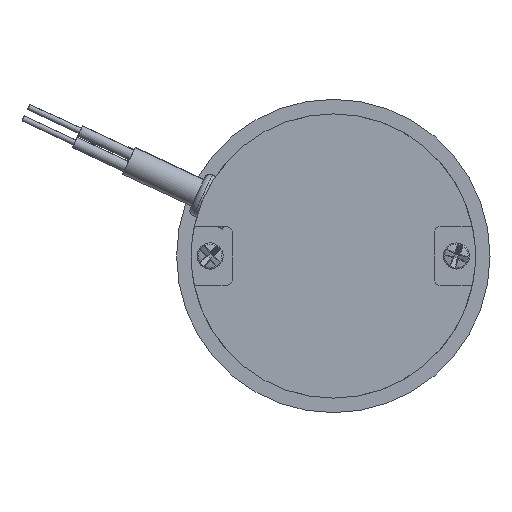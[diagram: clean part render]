
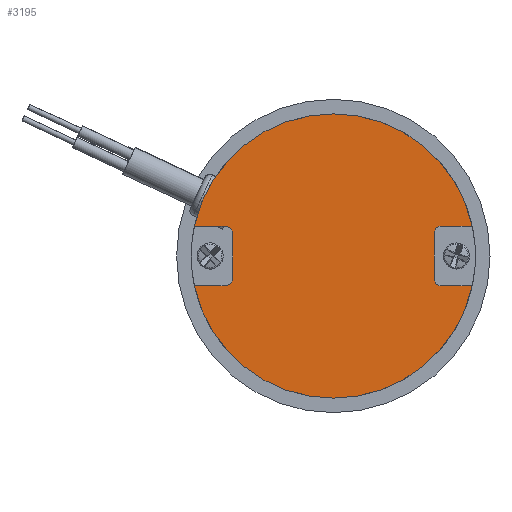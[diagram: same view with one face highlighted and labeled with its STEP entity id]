
A CAD part, left-side view. The second image highlights one B-rep face of the part: STEP entity #3195.
In plain terms, the highlighted planar face has unit normal (-1, 0, 0).
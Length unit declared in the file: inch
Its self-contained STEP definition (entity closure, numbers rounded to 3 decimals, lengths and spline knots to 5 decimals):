
#65 = CIRCLE ( 'NONE', #9357, 0.75 ) ;
#128 = CARTESIAN_POINT ( 'NONE',  ( -7.72717, 0.57087, 0.11811 ) ) ;
#151 = CARTESIAN_POINT ( 'NONE',  ( -7.72717, -0.57087, 0.15748 ) ) ;
#287 = ORIENTED_EDGE ( 'NONE', *, *, #6706, .T. ) ;
#323 = DIRECTION ( 'NONE',  ( 0., 0., -1. ) ) ;
#361 = DIRECTION ( 'NONE',  ( 1., 0., 0. ) ) ;
#371 = DIRECTION ( 'NONE',  ( 0., 0., 1. ) ) ;
#427 = DIRECTION ( 'NONE',  ( 1., 0., 0. ) ) ;
#435 = CARTESIAN_POINT ( 'NONE',  ( -7.72717, 0., 0. ) ) ;
#437 = VECTOR ( 'NONE', #5974, 39.37008 ) ;
#588 = ORIENTED_EDGE ( 'NONE', *, *, #4961, .F. ) ;
#679 = ORIENTED_EDGE ( 'NONE', *, *, #1022, .T. ) ;
#764 = CARTESIAN_POINT ( 'NONE',  ( -7.72717, 0.57087, 0.15748 ) ) ;
#793 = CARTESIAN_POINT ( 'NONE',  ( -7.72717, 0.57087, -0.11811 ) ) ;
#860 = ORIENTED_EDGE ( 'NONE', *, *, #5391, .F. ) ;
#1003 = ORIENTED_EDGE ( 'NONE', *, *, #6011, .F. ) ;
#1022 = EDGE_CURVE ( 'NONE', #9121, #2642, #4595, .T. ) ;
#1137 = CARTESIAN_POINT ( 'NONE',  ( -7.72717, 0., 0. ) ) ;
#1159 = CARTESIAN_POINT ( 'NONE',  ( -7.72717, 0.5315, 0.11811 ) ) ;
#1178 = DIRECTION ( 'NONE',  ( 0., 0., -1. ) ) ;
#1267 = CARTESIAN_POINT ( 'NONE',  ( -7.72717, 0., 0. ) ) ;
#1410 = ORIENTED_EDGE ( 'NONE', *, *, #8387, .F. ) ;
#1634 = VERTEX_POINT ( 'NONE', #5633 ) ;
#1666 = DIRECTION ( 'NONE',  ( 0., 0., 1. ) ) ;
#1712 = ORIENTED_EDGE ( 'NONE', *, *, #4043, .T. ) ;
#1780 = CARTESIAN_POINT ( 'NONE',  ( -7.72717, -0.5315, 0. ) ) ;
#1797 = AXIS2_PLACEMENT_3D ( 'NONE', #1137, #361, #1884 ) ;
#1884 = DIRECTION ( 'NONE',  ( 0., 0., -1. ) ) ;
#2097 = CIRCLE ( 'NONE', #2318, 0.03937 ) ;
#2157 = AXIS2_PLACEMENT_3D ( 'NONE', #1267, #6557, #1178 ) ;
#2318 = AXIS2_PLACEMENT_3D ( 'NONE', #8368, #7637, #6867 ) ;
#2393 = DIRECTION ( 'NONE',  ( 0., 1., 0. ) ) ;
#2402 = CIRCLE ( 'NONE', #8930, 0.75 ) ;
#2416 = CARTESIAN_POINT ( 'NONE',  ( -7.72717, 0.73328, 0.15748 ) ) ;
#2424 = ORIENTED_EDGE ( 'NONE', *, *, #7437, .F. ) ;
#2435 = LINE ( 'NONE', #2992, #437 ) ;
#2540 = VERTEX_POINT ( 'NONE', #2416 ) ;
#2584 = LINE ( 'NONE', #3338, #6838 ) ;
#2633 = AXIS2_PLACEMENT_3D ( 'NONE', #793, #6088, #3069 ) ;
#2638 = DIRECTION ( 'NONE',  ( 1., 0., 0. ) ) ;
#2642 = VERTEX_POINT ( 'NONE', #7942 ) ;
#2713 = CARTESIAN_POINT ( 'NONE',  ( -7.72717, 0., 0.15748 ) ) ;
#2876 = CIRCLE ( 'NONE', #8503, 0.75 ) ;
#2880 = CARTESIAN_POINT ( 'NONE',  ( -7.72717, 0., -0.75 ) ) ;
#2992 = CARTESIAN_POINT ( 'NONE',  ( -7.72717, 0., -0.15748 ) ) ;
#3069 = DIRECTION ( 'NONE',  ( 0., 0., 1. ) ) ;
#3147 = AXIS2_PLACEMENT_3D ( 'NONE', #128, #5454, #7653 ) ;
#3168 = CIRCLE ( 'NONE', #3147, 0.03937 ) ;
#3195 = ADVANCED_FACE ( 'NONE', ( #7487 ), #5722, .F. ) ;
#3238 = VERTEX_POINT ( 'NONE', #9511 ) ;
#3338 = CARTESIAN_POINT ( 'NONE',  ( -7.72717, 0.5315, 0. ) ) ;
#3339 = CARTESIAN_POINT ( 'NONE',  ( -7.72717, 0., 0.75 ) ) ;
#3383 = LINE ( 'NONE', #8463, #3617 ) ;
#3384 = ORIENTED_EDGE ( 'NONE', *, *, #4830, .F. ) ;
#3395 = VERTEX_POINT ( 'NONE', #7436 ) ;
#3617 = VECTOR ( 'NONE', #2393, 39.37008 ) ;
#3779 = VERTEX_POINT ( 'NONE', #1159 ) ;
#3809 = DIRECTION ( 'NONE',  ( 1., 0., 0. ) ) ;
#3958 = CIRCLE ( 'NONE', #7788, 0.03937 ) ;
#4043 = EDGE_CURVE ( 'NONE', #2642, #4545, #2435, .T. ) ;
#4489 = EDGE_CURVE ( 'NONE', #8700, #3395, #8174, .T. ) ;
#4521 = EDGE_CURVE ( 'NONE', #9121, #3779, #2584, .T. ) ;
#4545 = VERTEX_POINT ( 'NONE', #8754 ) ;
#4595 = CIRCLE ( 'NONE', #2633, 0.03937 ) ;
#4617 = ORIENTED_EDGE ( 'NONE', *, *, #7273, .F. ) ;
#4740 = VECTOR ( 'NONE', #5229, 39.37008 ) ;
#4830 = EDGE_CURVE ( 'NONE', #3779, #6949, #3168, .T. ) ;
#4961 = EDGE_CURVE ( 'NONE', #1634, #7423, #9782, .T. ) ;
#4972 = CARTESIAN_POINT ( 'NONE',  ( -7.72717, 0., 0. ) ) ;
#5229 = DIRECTION ( 'NONE',  ( 0., -1., 0. ) ) ;
#5255 = EDGE_CURVE ( 'NONE', #7423, #6977, #2097, .T. ) ;
#5391 = EDGE_CURVE ( 'NONE', #6949, #2540, #3383, .T. ) ;
#5454 = DIRECTION ( 'NONE',  ( -1., 0., 0. ) ) ;
#5484 = EDGE_LOOP ( 'NONE', ( #1712, #1410, #4617, #6911, #8720, #588, #287, #9114, #1003, #2424, #860, #3384, #8096, #679 ) ) ;
#5584 = VERTEX_POINT ( 'NONE', #2880 ) ;
#5633 = CARTESIAN_POINT ( 'NONE',  ( -7.72717, -0.5315, 0.11811 ) ) ;
#5722 = PLANE ( 'NONE',  #1797 ) ;
#5753 = CARTESIAN_POINT ( 'NONE',  ( -7.72717, -0.5315, -0.11811 ) ) ;
#5945 = CIRCLE ( 'NONE', #2157, 0.75 ) ;
#5974 = DIRECTION ( 'NONE',  ( 0., 1., 0. ) ) ;
#6011 = EDGE_CURVE ( 'NONE', #8288, #3395, #65, .T. ) ;
#6037 = CARTESIAN_POINT ( 'NONE',  ( -7.72717, 0.5315, -0.11811 ) ) ;
#6088 = DIRECTION ( 'NONE',  ( 1., 0., 0. ) ) ;
#6172 = CARTESIAN_POINT ( 'NONE',  ( -7.72717, -0.57087, 0.11811 ) ) ;
#6557 = DIRECTION ( 'NONE',  ( 1., 0., 0. ) ) ;
#6604 = DIRECTION ( 'NONE',  ( 0., 0., -1. ) ) ;
#6706 = EDGE_CURVE ( 'NONE', #1634, #8700, #3958, .T. ) ;
#6838 = VECTOR ( 'NONE', #371, 39.37008 ) ;
#6848 = CARTESIAN_POINT ( 'NONE',  ( -7.72717, -0.57087, -0.15748 ) ) ;
#6867 = DIRECTION ( 'NONE',  ( 0., 0., 1. ) ) ;
#6911 = ORIENTED_EDGE ( 'NONE', *, *, #9056, .F. ) ;
#6949 = VERTEX_POINT ( 'NONE', #764 ) ;
#6977 = VERTEX_POINT ( 'NONE', #6848 ) ;
#7045 = DIRECTION ( 'NONE',  ( 1., 0., 0. ) ) ;
#7073 = DIRECTION ( 'NONE',  ( 0., 0., -1. ) ) ;
#7273 = EDGE_CURVE ( 'NONE', #3238, #5584, #2402, .T. ) ;
#7423 = VERTEX_POINT ( 'NONE', #5753 ) ;
#7436 = CARTESIAN_POINT ( 'NONE',  ( -7.72717, -0.73328, 0.15748 ) ) ;
#7437 = EDGE_CURVE ( 'NONE', #2540, #8288, #2876, .T. ) ;
#7487 = FACE_OUTER_BOUND ( 'NONE', #5484, .T. ) ;
#7637 = DIRECTION ( 'NONE',  ( -1., 0., 0. ) ) ;
#7653 = DIRECTION ( 'NONE',  ( 0., 0., 1. ) ) ;
#7788 = AXIS2_PLACEMENT_3D ( 'NONE', #6172, #3809, #1666 ) ;
#7938 = DIRECTION ( 'NONE',  ( 0., 0., -1. ) ) ;
#7942 = CARTESIAN_POINT ( 'NONE',  ( -7.72717, 0.57087, -0.15748 ) ) ;
#8014 = DIRECTION ( 'NONE',  ( 0., -1., 0. ) ) ;
#8096 = ORIENTED_EDGE ( 'NONE', *, *, #4521, .F. ) ;
#8174 = LINE ( 'NONE', #2713, #8406 ) ;
#8288 = VERTEX_POINT ( 'NONE', #3339 ) ;
#8307 = LINE ( 'NONE', #9722, #4740 ) ;
#8368 = CARTESIAN_POINT ( 'NONE',  ( -7.72717, -0.57087, -0.11811 ) ) ;
#8387 = EDGE_CURVE ( 'NONE', #5584, #4545, #5945, .T. ) ;
#8406 = VECTOR ( 'NONE', #8014, 39.37008 ) ;
#8463 = CARTESIAN_POINT ( 'NONE',  ( -7.72717, 0., 0.15748 ) ) ;
#8503 = AXIS2_PLACEMENT_3D ( 'NONE', #435, #2638, #7938 ) ;
#8577 = CARTESIAN_POINT ( 'NONE',  ( -7.72717, 0., 0. ) ) ;
#8617 = VECTOR ( 'NONE', #323, 39.37008 ) ;
#8700 = VERTEX_POINT ( 'NONE', #151 ) ;
#8720 = ORIENTED_EDGE ( 'NONE', *, *, #5255, .F. ) ;
#8754 = CARTESIAN_POINT ( 'NONE',  ( -7.72717, 0.73328, -0.15748 ) ) ;
#8930 = AXIS2_PLACEMENT_3D ( 'NONE', #8577, #7045, #7073 ) ;
#9056 = EDGE_CURVE ( 'NONE', #6977, #3238, #8307, .T. ) ;
#9114 = ORIENTED_EDGE ( 'NONE', *, *, #4489, .T. ) ;
#9121 = VERTEX_POINT ( 'NONE', #6037 ) ;
#9357 = AXIS2_PLACEMENT_3D ( 'NONE', #4972, #427, #6604 ) ;
#9511 = CARTESIAN_POINT ( 'NONE',  ( -7.72717, -0.73328, -0.15748 ) ) ;
#9722 = CARTESIAN_POINT ( 'NONE',  ( -7.72717, 0., -0.15748 ) ) ;
#9782 = LINE ( 'NONE', #1780, #8617 ) ;
